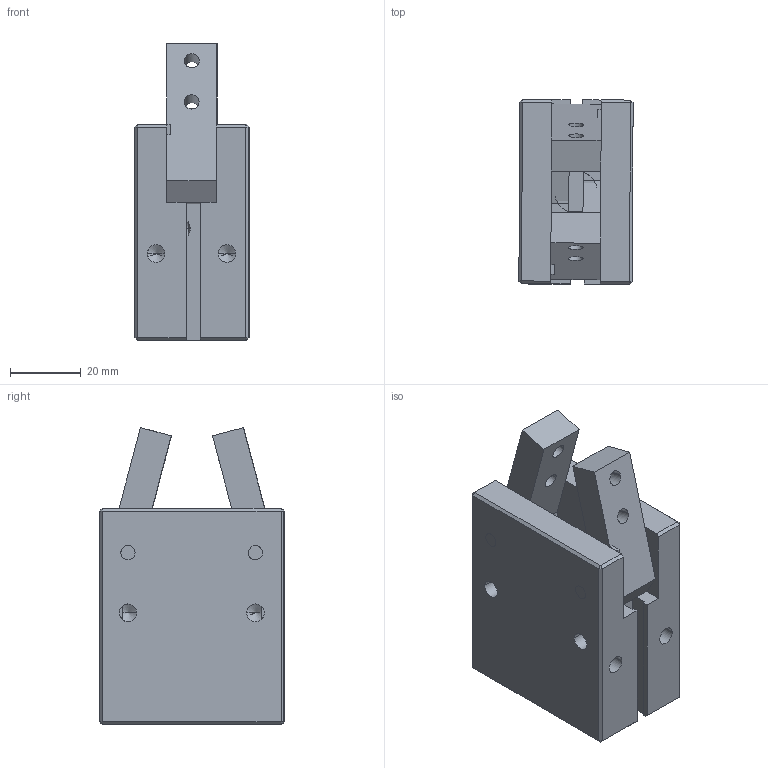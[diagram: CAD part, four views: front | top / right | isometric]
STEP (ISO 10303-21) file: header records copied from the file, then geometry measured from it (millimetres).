
FILE_DESCRIPTION (( 'STEP AP203' ), '1' );
FILE_NAME ('GDS.25-CLOSE.STEP', '2011-10-20T11:51:07', ( 'Christophe Gaillard' ), ( 'SGA' ), 'SwSTEP 2.0', 'SolidWorks 2010', '' );
FILE_SCHEMA (( 'CONFIG_CONTROL_DESIGN' ));
Length unit declared in the file: millimetre
Products named in the file (6): Pièce7; mors.GDS.25; GDS.25-CLOSE; corps.GDS.25; Pièce29; Pièce10
Assembly tree (8 placements, depth 2):
  GDS.25-CLOSE
    Pièce10  x2
    Pièce7  x2
    corps.GDS.25
    mors.GDS.25  x2
    Pièce29
Bounding box: 32.26 x 52.16 x 83.79 mm (x, y, z)
Volume: 93026.1 mm3; surface area: 27971 mm2
Topology: 8 solids, 8 shells, 587 faces, 1567 edges, 1024 vertices
Faces by surface type: plane 306, bspline 217, cylinder 48, cone 16
Entity records: 32773 total; most frequent: CARTESIAN_POINT 19578, ORIENTED_EDGE 2970, DIRECTION 1823, EDGE_CURVE 1485, VERTEX_POINT 980, VECTOR 961, LINE 961, EDGE_LOOP 621
